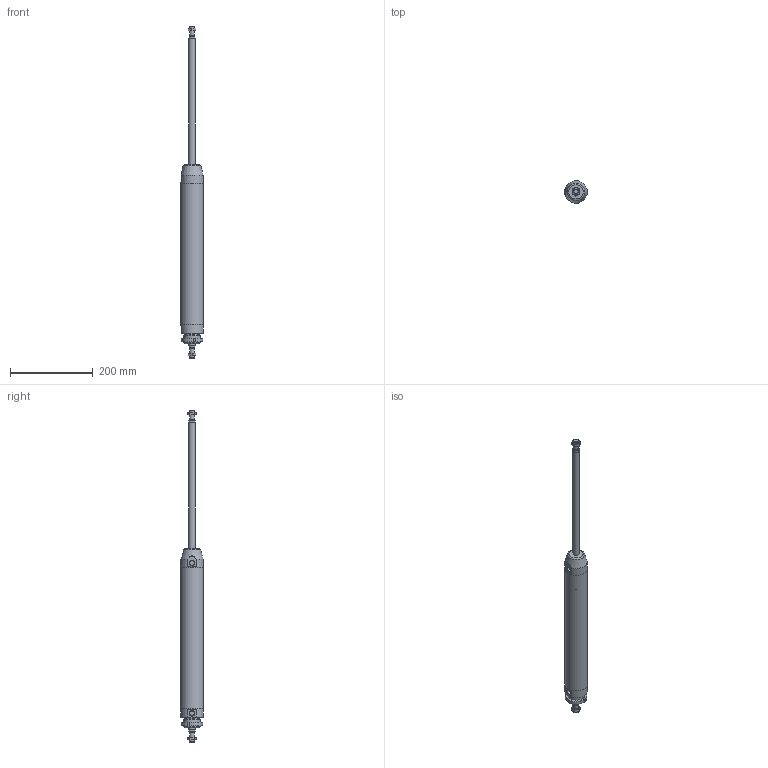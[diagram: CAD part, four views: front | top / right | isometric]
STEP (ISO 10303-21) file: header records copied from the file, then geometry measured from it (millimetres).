
FILE_DESCRIPTION(/* description */ (''),/* implementation_level */ '2;1');
FILE_NAME(/* name */ 'I:\Area Tecnica\Documenti\A-Manieri\_Inventor\12X\12X#T_###_####_#_#\12XCT_050_0300_#_#.stp',/* time_stamp */ '2015-05-13T08:46:26+02:00',/* author */ ('maniean1'),/* organization */ ('Pneumax S.p.A.'),/* preprocessor_version */ 'ST-DEVELOPER v15.2',/* originating_system */ 'Autodesk Inventor 2014',/* authorisation */ '');
FILE_SCHEMA (('AUTOMOTIVE_DESIGN { 1 0 10303 214 3 1 1 }'));
Length unit declared in the file: millimetre
Products named in the file (7): C1250_619-0300; 12X50_604; SP12X50_0300; 12X_50_11; 12X50_613; G12X_050_05; 12XCT_050_0300_#_#
Bounding box: 54 x 54 x 802 mm (x, y, z)
Volume: 502412 mm3; surface area: 192578.3 mm2
Topology: 7 solids, 7 shells, 107 faces, 238 edges, 152 vertices
Faces by surface type: plane 54, cylinder 26, cone 26, torus 1
Full cylindrical faces by diameter (mm): 10.2 x2, 11.4 x2, 12 x4, 14 x2, 15.6 x2, 16 x2, 38.2 x1, 40 x3, 50 x2, 54 x3
Entity records: 2546 total; most frequent: CARTESIAN_POINT 474, DIRECTION 433, ORIENTED_EDGE 338, AXIS2_PLACEMENT_3D 187, EDGE_CURVE 169, EDGE_LOOP 150, VERTEX_POINT 129, ADVANCED_FACE 96
